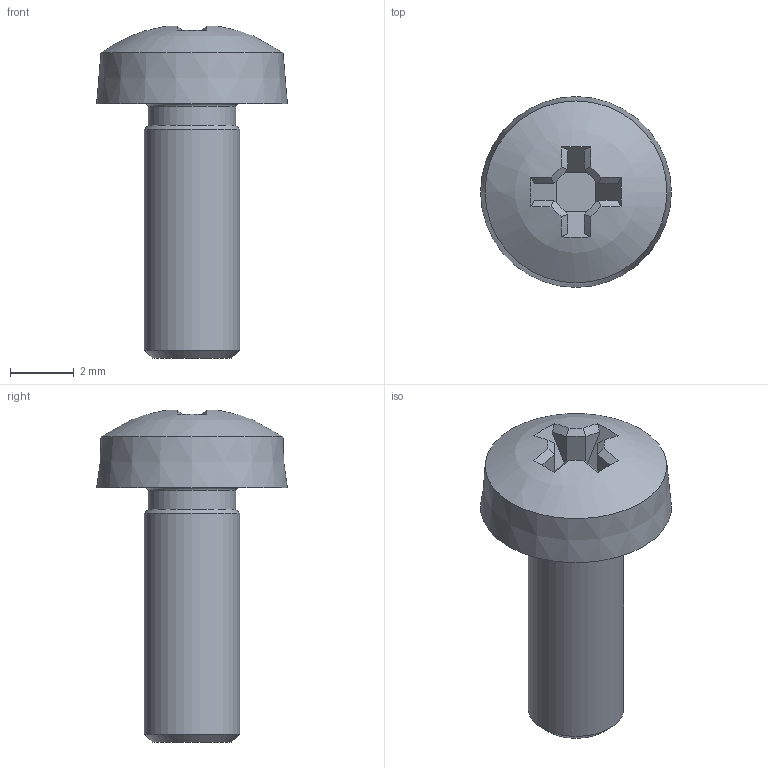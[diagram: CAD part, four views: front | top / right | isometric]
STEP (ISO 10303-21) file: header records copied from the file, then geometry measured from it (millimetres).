
FILE_DESCRIPTION(/* description */ ('Linsenkopf Schraube mit Kreuzschlitz DIN 7985 (H) - M3x8-H','CAx-IF Rec.Pracs.---Representation and Presentation of Product Manufacturing Information (PMI)---4.0---2014-10-13'),/* implementation_level */ '2;1');
FILE_NAME(/* name */ 'E:\CAMTEC_2020_Pack and Go\Subrack_2U\2530245.stp',/* time_stamp */ '2020-09-21T13:32:07+02:00',/* author */ ('rryba'),/* organization */ (''),/* preprocessor_version */ 'ST-DEVELOPER v18.1',/* originating_system */ 'Autodesk Inventor 2021',/* authorisation */ '');
FILE_SCHEMA (('AP242_MANAGED_MODEL_BASED_3D_ENGINEERING_MIM_LF { 1 0 10303 442 1 1 4 }'));
Length unit declared in the file: millimetre
Products named in the file (1): 2530245
Bounding box: 6 x 6 x 10.44 mm (x, y, z)
Volume: 107.1 mm3; surface area: 169.4 mm2
Topology: 1 solids, 1 shells, 38 faces, 120 edges, 101 vertices
Faces by surface type: plane 19, cone 15, cylinder 2, sphere 1, torus 1
Full cylindrical faces by diameter (mm): 2.75 x1, 3 x1
Entity records: 1356 total; most frequent: CARTESIAN_POINT 293, DIRECTION 211, ORIENTED_EDGE 208, EDGE_CURVE 104, AXIS2_PLACEMENT_3D 87, VERTEX_POINT 69, CIRCLE 44, EDGE_LOOP 39
